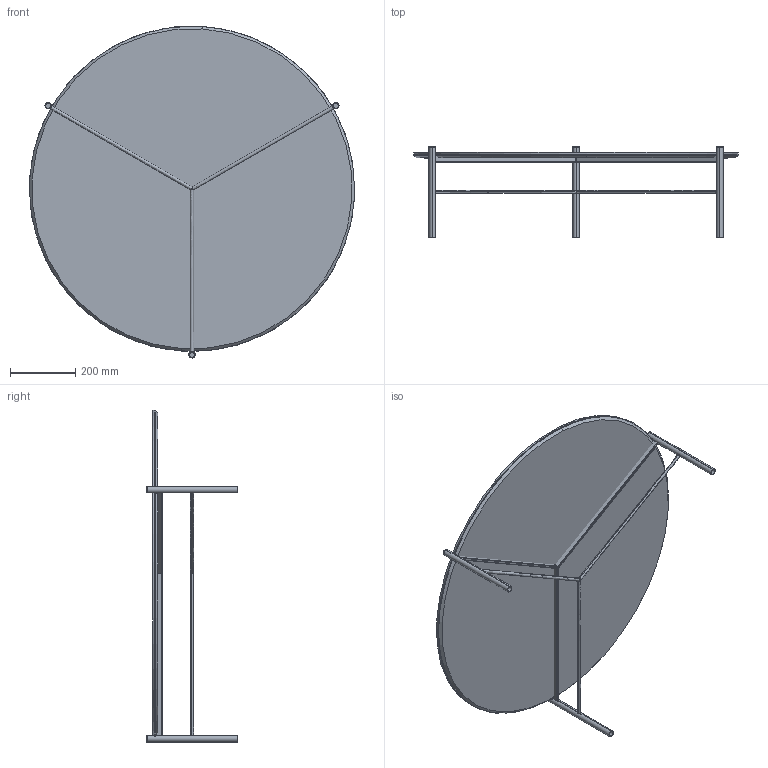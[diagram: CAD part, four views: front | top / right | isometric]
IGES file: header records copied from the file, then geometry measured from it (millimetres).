
Start section: SolidWorks IGES file using analytic representation for surfaces
Global section: file name: Y:\eforma\TECNICO\SOLIDWORKS\E-FORMA\2-TAVOLINI\JACK\02 parts\J103C.IGS; native system: SolidWorks 2022; preprocessor: SolidWorks 2022; author: eforma.tech; date: 240806.134413; units: millimetre
Bounding box: 999.98 x 279 x 1020.07 mm (x, y, z)
Volume: 15036275.1 mm3; surface area: 5090366.3 mm2
Topology: 15 solids, 15 shells, 131 faces, 303 edges, 200 vertices
Faces by surface type: revolution 77, plane 54
